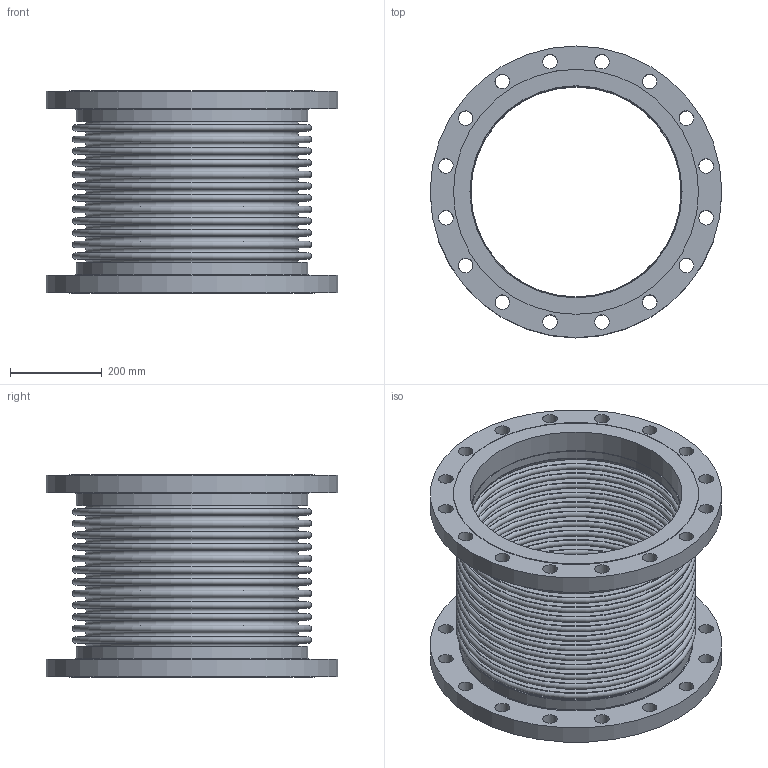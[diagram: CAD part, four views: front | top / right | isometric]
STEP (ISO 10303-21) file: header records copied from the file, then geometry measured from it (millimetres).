
FILE_DESCRIPTION(/* description */ ('EXPANSION JOINT,SINGLE, FLANGED ENDS,18 INCH','CAx-IF Rec.Pracs.---Representation and Presentation of Product Manufacturing Information (PMI)---4.0---2014-10-13'),/* implementation_level */ '2;1');
FILE_NAME(/* name */ 'US-18-12-150L-FLANGED ENDS.stp',/* time_stamp */ '2026-07-31T17:37:47-05:00',/* author */ ('Guadalupe'),/* organization */ (''),/* preprocessor_version */ 'ST-DEVELOPER v20.1',/* originating_system */ 'Autodesk Inventor 2026',/* authorisation */ '');
FILE_SCHEMA (('AP242_MANAGED_MODEL_BASED_3D_ENGINEERING_MIM_LF { 1 0 10303 442 2 1 4 }'));
Length unit declared in the file: inch
Products named in the file (3): 18-150L; 18-150L-02; 18-150L-01
Assembly tree (3 placements, depth 2):
  18-150L
    18-150L-02  x2
    18-150L-01
Bounding box: 635 x 635 x 440.94 mm (x, y, z)
Volume: 14630365.7 mm3; surface area: 3994649.3 mm2
Topology: 5 solids, 5 shells, 160 faces, 294 edges, 196 vertices
Faces by surface type: plane 62, torus 54, cylinder 44
Full cylindrical faces by diameter (mm): 31.75 x32, 457.2 x2, 460.248 x2, 461.772 x2, 504.952 x2, 533.4 x2, 635 x2
Entity records: 3606 total; most frequent: DIRECTION 738, CARTESIAN_POINT 537, ORIENTED_EDGE 456, AXIS2_PLACEMENT_3D 357, EDGE_CURVE 228, EDGE_LOOP 224, CIRCLE 204, VERTEX_POINT 152
